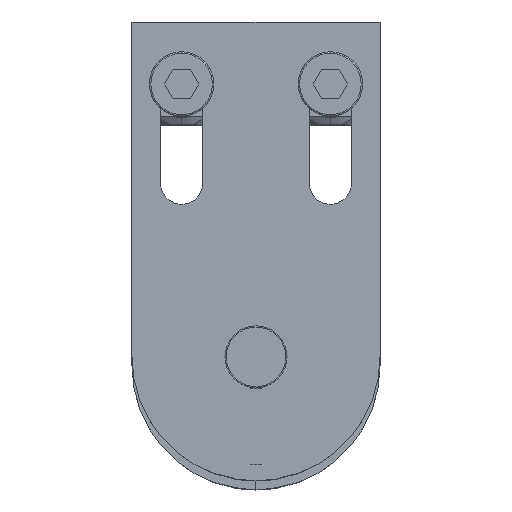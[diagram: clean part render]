
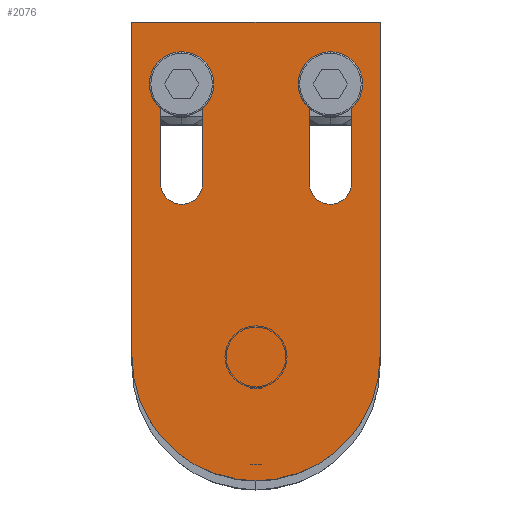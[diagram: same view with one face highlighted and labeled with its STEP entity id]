
A CAD part, top view. The second image highlights one B-rep face of the part: STEP entity #2076.
In plain terms, the highlighted planar face has unit normal (0, 0, 1) as drawn and (0, 0, -1) by its records, which use the part's own axes.
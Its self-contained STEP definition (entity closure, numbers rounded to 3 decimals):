
#58 = ORIENTED_EDGE ( 'NONE', *, *, #4058, .F. ) ;
#109 = AXIS2_PLACEMENT_3D ( 'NONE', #2449, #2124, #726 ) ;
#252 = CARTESIAN_POINT ( 'NONE',  ( 15., 35., -6. ) ) ;
#265 = DIRECTION ( 'NONE',  ( 0., 0., 1. ) ) ;
#334 = AXIS2_PLACEMENT_3D ( 'NONE', #2338, #2627, #2657 ) ;
#345 = DIRECTION ( 'NONE',  ( 0., 1., 0. ) ) ;
#525 = VERTEX_POINT ( 'NONE', #1725 ) ;
#541 = VECTOR ( 'NONE', #3193, 1000. ) ;
#673 = ORIENTED_EDGE ( 'NONE', *, *, #3087, .T. ) ;
#679 = DIRECTION ( 'NONE',  ( -1., 0., 0. ) ) ;
#726 = DIRECTION ( 'NONE',  ( 1., 0., 0. ) ) ;
#792 = EDGE_CURVE ( 'NONE', #882, #1590, #2132, .T. ) ;
#796 = DIRECTION ( 'NONE',  ( 0., -1., 0. ) ) ;
#816 = CARTESIAN_POINT ( 'NONE',  ( 25., 67.5, -6. ) ) ;
#819 = ORIENTED_EDGE ( 'NONE', *, *, #2121, .F. ) ;
#862 = EDGE_CURVE ( 'NONE', #3689, #2118, #3020, .T. ) ;
#882 = VERTEX_POINT ( 'NONE', #4270 ) ;
#926 = EDGE_CURVE ( 'NONE', #3314, #2499, #3140, .T. ) ;
#927 = FACE_BOUND ( 'NONE', #3877, .T. ) ;
#1130 = CARTESIAN_POINT ( 'NONE',  ( -19.25, 55., -6. ) ) ;
#1252 = ORIENTED_EDGE ( 'NONE', *, *, #862, .T. ) ;
#1293 = EDGE_CURVE ( 'NONE', #2118, #525, #2967, .T. ) ;
#1382 = DIRECTION ( 'NONE',  ( 0., 0., 1. ) ) ;
#1531 = LINE ( 'NONE', #4050, #1743 ) ;
#1560 = DIRECTION ( 'NONE',  ( -1., 0., 0. ) ) ;
#1584 = DIRECTION ( 'NONE',  ( 0., -1., 0. ) ) ;
#1590 = VERTEX_POINT ( 'NONE', #2281 ) ;
#1719 = VECTOR ( 'NONE', #1584, 1000. ) ;
#1725 = CARTESIAN_POINT ( 'NONE',  ( 19.25, 55., -6. ) ) ;
#1743 = VECTOR ( 'NONE', #345, 1000. ) ;
#1763 = ORIENTED_EDGE ( 'NONE', *, *, #2175, .T. ) ;
#1801 = VECTOR ( 'NONE', #2808, 1000. ) ;
#1840 = EDGE_CURVE ( 'NONE', #2870, #3453, #3342, .T. ) ;
#1942 = CARTESIAN_POINT ( 'NONE',  ( -10.75, 35., -6. ) ) ;
#1963 = LINE ( 'NONE', #2471, #1801 ) ;
#2041 = CARTESIAN_POINT ( 'NONE',  ( 10.75, 35., -6. ) ) ;
#2047 = VERTEX_POINT ( 'NONE', #3129 ) ;
#2065 = VERTEX_POINT ( 'NONE', #1130 ) ;
#2076 = ADVANCED_FACE ( 'NONE', ( #3631, #927, #2225 ), #3165, .F. ) ;
#2078 = CARTESIAN_POINT ( 'NONE',  ( -25., 0., -6. ) ) ;
#2118 = VERTEX_POINT ( 'NONE', #2836 ) ;
#2121 = EDGE_CURVE ( 'NONE', #1590, #2870, #4374, .T. ) ;
#2124 = DIRECTION ( 'NONE',  ( 0., 0., 1. ) ) ;
#2132 = LINE ( 'NONE', #816, #541 ) ;
#2175 = EDGE_CURVE ( 'NONE', #2065, #3314, #2611, .T. ) ;
#2212 = CARTESIAN_POINT ( 'NONE',  ( -19.25, 35., -6. ) ) ;
#2225 = FACE_OUTER_BOUND ( 'NONE', #2290, .T. ) ;
#2233 = CARTESIAN_POINT ( 'NONE',  ( -19.25, 35., -6. ) ) ;
#2281 = CARTESIAN_POINT ( 'NONE',  ( -25., 67.5, -6. ) ) ;
#2290 = EDGE_LOOP ( 'NONE', ( #3799, #819, #3666, #58 ) ) ;
#2303 = VECTOR ( 'NONE', #3498, 1000. ) ;
#2338 = CARTESIAN_POINT ( 'NONE',  ( -15., 35., -6. ) ) ;
#2405 = EDGE_CURVE ( 'NONE', #2478, #2065, #4096, .T. ) ;
#2449 = CARTESIAN_POINT ( 'NONE',  ( 0., 0., -6. ) ) ;
#2471 = CARTESIAN_POINT ( 'NONE',  ( 25., 0., -6. ) ) ;
#2478 = VERTEX_POINT ( 'NONE', #3268 ) ;
#2499 = VERTEX_POINT ( 'NONE', #1942 ) ;
#2580 = LINE ( 'NONE', #4032, #4183 ) ;
#2611 = LINE ( 'NONE', #2233, #1719 ) ;
#2627 = DIRECTION ( 'NONE',  ( 0., 0., 1. ) ) ;
#2657 = DIRECTION ( 'NONE',  ( 1., 0., 0. ) ) ;
#2683 = CARTESIAN_POINT ( 'NONE',  ( -15., 55., -6. ) ) ;
#2808 = DIRECTION ( 'NONE',  ( 0., 1., 0. ) ) ;
#2836 = CARTESIAN_POINT ( 'NONE',  ( 19.25, 35., -6. ) ) ;
#2870 = VERTEX_POINT ( 'NONE', #2078 ) ;
#2879 = EDGE_CURVE ( 'NONE', #525, #2047, #3807, .T. ) ;
#2967 = LINE ( 'NONE', #3832, #3559 ) ;
#2982 = ORIENTED_EDGE ( 'NONE', *, *, #2405, .T. ) ;
#2986 = EDGE_CURVE ( 'NONE', #2499, #2478, #1531, .T. ) ;
#2994 = EDGE_LOOP ( 'NONE', ( #673, #1252, #3614, #3326 ) ) ;
#3020 = CIRCLE ( 'NONE', #3878, 4.25 ) ;
#3063 = AXIS2_PLACEMENT_3D ( 'NONE', #2683, #4052, #3374 ) ;
#3087 = EDGE_CURVE ( 'NONE', #2047, #3689, #2580, .T. ) ;
#3129 = CARTESIAN_POINT ( 'NONE',  ( 10.75, 55., -6. ) ) ;
#3140 = CIRCLE ( 'NONE', #334, 4.25 ) ;
#3154 = DIRECTION ( 'NONE',  ( 0., 1., 0. ) ) ;
#3161 = AXIS2_PLACEMENT_3D ( 'NONE', #3826, #3543, #3869 ) ;
#3165 = PLANE ( 'NONE',  #3161 ) ;
#3181 = CARTESIAN_POINT ( 'NONE',  ( -25., 0., -6. ) ) ;
#3193 = DIRECTION ( 'NONE',  ( -1., 0., 0. ) ) ;
#3268 = CARTESIAN_POINT ( 'NONE',  ( -10.75, 55., -6. ) ) ;
#3314 = VERTEX_POINT ( 'NONE', #2212 ) ;
#3326 = ORIENTED_EDGE ( 'NONE', *, *, #2879, .T. ) ;
#3342 = CIRCLE ( 'NONE', #109, 25. ) ;
#3374 = DIRECTION ( 'NONE',  ( 1., 0., 0. ) ) ;
#3450 = CARTESIAN_POINT ( 'NONE',  ( 15., 55., -6. ) ) ;
#3453 = VERTEX_POINT ( 'NONE', #3586 ) ;
#3498 = DIRECTION ( 'NONE',  ( 0., -1., 0. ) ) ;
#3543 = DIRECTION ( 'NONE',  ( 0., 0., 1. ) ) ;
#3559 = VECTOR ( 'NONE', #3154, 1000. ) ;
#3586 = CARTESIAN_POINT ( 'NONE',  ( 25., 0., -6. ) ) ;
#3614 = ORIENTED_EDGE ( 'NONE', *, *, #1293, .T. ) ;
#3631 = FACE_BOUND ( 'NONE', #2994, .T. ) ;
#3666 = ORIENTED_EDGE ( 'NONE', *, *, #792, .F. ) ;
#3689 = VERTEX_POINT ( 'NONE', #2041 ) ;
#3799 = ORIENTED_EDGE ( 'NONE', *, *, #1840, .F. ) ;
#3807 = CIRCLE ( 'NONE', #3932, 4.25 ) ;
#3826 = CARTESIAN_POINT ( 'NONE',  ( 0., 0., -6. ) ) ;
#3832 = CARTESIAN_POINT ( 'NONE',  ( 19.25, 35., -6. ) ) ;
#3869 = DIRECTION ( 'NONE',  ( 1., 0., 0. ) ) ;
#3877 = EDGE_LOOP ( 'NONE', ( #1763, #4102, #3951, #2982 ) ) ;
#3878 = AXIS2_PLACEMENT_3D ( 'NONE', #252, #265, #1560 ) ;
#3932 = AXIS2_PLACEMENT_3D ( 'NONE', #3450, #1382, #679 ) ;
#3951 = ORIENTED_EDGE ( 'NONE', *, *, #2986, .T. ) ;
#4032 = CARTESIAN_POINT ( 'NONE',  ( 10.75, 35., -6. ) ) ;
#4050 = CARTESIAN_POINT ( 'NONE',  ( -10.75, 35., -6. ) ) ;
#4052 = DIRECTION ( 'NONE',  ( 0., 0., 1. ) ) ;
#4058 = EDGE_CURVE ( 'NONE', #3453, #882, #1963, .T. ) ;
#4096 = CIRCLE ( 'NONE', #3063, 4.25 ) ;
#4102 = ORIENTED_EDGE ( 'NONE', *, *, #926, .T. ) ;
#4183 = VECTOR ( 'NONE', #796, 1000. ) ;
#4270 = CARTESIAN_POINT ( 'NONE',  ( 25., 67.5, -6. ) ) ;
#4374 = LINE ( 'NONE', #3181, #2303 ) ;
